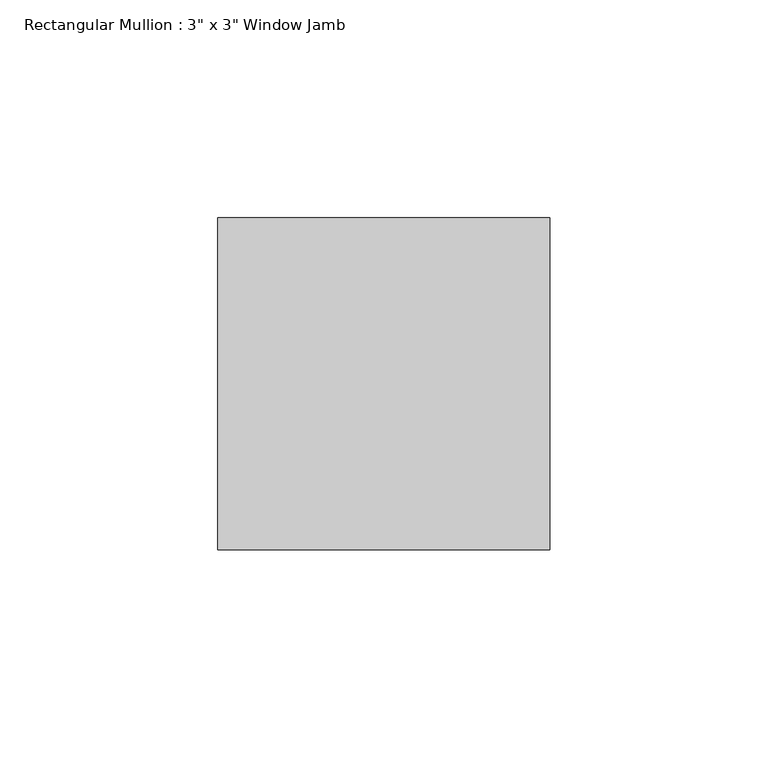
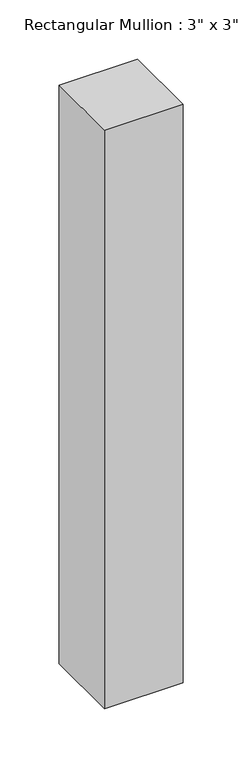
"""IFC4 building model written with IfcOpenShell, lengths in millimetres: member geometry."""

from ifc_helpers import new_model, si_unit, frame, origin, place, context, project, spatial, polyline, outline, extrude, source, transform, mapped, element, save


def member_a415275a(model_context):
    return source(origin(), model_context, "Body", "SweptSolid", [
        extrude(outline(polyline([(0.0, 50.8), (0.0, -25.4), (-76.2, -25.4), (-76.2, 50.8), (0.0, 50.8)])), frame((0.0, 0.0, -594.36), z_axis=(0.0, 0.0, 1.0), x_axis=(1.0, 0.0, 0.0)), (0.0, 0.0, 1.0), 594.36),
    ])


if __name__ == "__main__":
    model = new_model("IFC4")
    model_context = context("Model", 3, world=origin())
    ifc_project = project(units=[si_unit("LENGTHUNIT", "METRE", prefix="MILLI")], contexts=[model_context])
    site = spatial("IfcSite", under=ifc_project)
    building = spatial("IfcBuilding", under=site)
    placement = place(None, origin())
    member_shape = member_a415275a(model_context)
    element("IfcMember", 1, ObjectType="Rectangular Mullion : 3\" x 3\" Window Jamb", at=placement, inside=building, context=model_context, shape_type="MappedRepresentation", body=[
        mapped(member_shape, transform((0.0, 0.0, 0.0), x_axis=(1.0, 0.0, 0.0), y_axis=(0.0, 1.0, 0.0), z_axis=(0.0, 0.0, 1.0))),
    ])
    save(model, "model.ifc")
